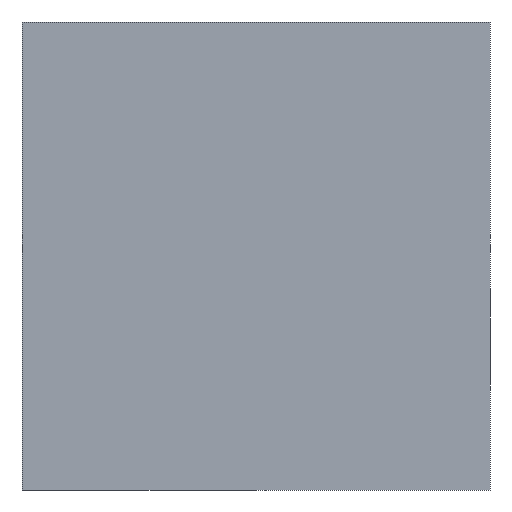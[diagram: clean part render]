
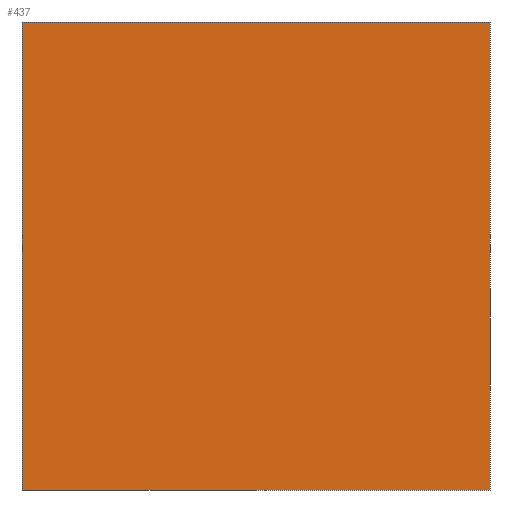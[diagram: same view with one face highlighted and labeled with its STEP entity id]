
A CAD part, left-side view. The second image highlights one B-rep face of the part: STEP entity #437.
In plain terms, the highlighted planar face has unit normal (-1, 0, 0).
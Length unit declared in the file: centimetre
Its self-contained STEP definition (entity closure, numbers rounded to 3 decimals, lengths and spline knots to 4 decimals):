
#3 = LINE ( 'NONE', #445, #345 ) ;
#4 = CARTESIAN_POINT ( 'NONE',  ( 0., 1000., 1000. ) ) ;
#9 = CARTESIAN_POINT ( 'NONE',  ( 0., 0., 0. ) ) ;
#13 = DIRECTION ( 'NONE',  ( 0., -1., 0. ) ) ;
#18 = CARTESIAN_POINT ( 'NONE',  ( 0., 1000., 1000. ) ) ;
#29 = ORIENTED_EDGE ( 'NONE', *, *, #322, .T. ) ;
#34 = ORIENTED_EDGE ( 'NONE', *, *, #38, .T. ) ;
#35 = VECTOR ( 'NONE', #52, 100. ) ;
#38 = EDGE_CURVE ( 'NONE', #354, #435, #300, .T. ) ;
#44 = PLANE ( 'NONE',  #387 ) ;
#52 = DIRECTION ( 'NONE',  ( 0., 0., -1. ) ) ;
#103 = ORIENTED_EDGE ( 'NONE', *, *, #289, .F. ) ;
#111 = EDGE_LOOP ( 'NONE', ( #29, #392, #103, #34 ) ) ;
#188 = CARTESIAN_POINT ( 'NONE',  ( 0., 1000., 0. ) ) ;
#190 = CARTESIAN_POINT ( 'NONE',  ( 0., 0., 1000. ) ) ;
#198 = LINE ( 'NONE', #202, #263 ) ;
#200 = VERTEX_POINT ( 'NONE', #382 ) ;
#201 = EDGE_CURVE ( 'NONE', #200, #472, #420, .T. ) ;
#202 = CARTESIAN_POINT ( 'NONE',  ( 0., 1000., 0. ) ) ;
#246 = VECTOR ( 'NONE', #417, 100. ) ;
#263 = VECTOR ( 'NONE', #349, 100. ) ;
#267 = DIRECTION ( 'NONE',  ( 0., 0., -1. ) ) ;
#289 = EDGE_CURVE ( 'NONE', #354, #200, #3, .T. ) ;
#300 = LINE ( 'NONE', #18, #246 ) ;
#317 = CARTESIAN_POINT ( 'NONE',  ( 0., 1000., 1000. ) ) ;
#322 = EDGE_CURVE ( 'NONE', #435, #472, #198, .T. ) ;
#340 = DIRECTION ( 'NONE',  ( 1., 0., 0. ) ) ;
#345 = VECTOR ( 'NONE', #13, 100. ) ;
#349 = DIRECTION ( 'NONE',  ( 0., -1., 0. ) ) ;
#354 = VERTEX_POINT ( 'NONE', #317 ) ;
#382 = CARTESIAN_POINT ( 'NONE',  ( 0., 0., 1000. ) ) ;
#387 = AXIS2_PLACEMENT_3D ( 'NONE', #4, #340, #267 ) ;
#392 = ORIENTED_EDGE ( 'NONE', *, *, #201, .F. ) ;
#415 = FACE_OUTER_BOUND ( 'NONE', #111, .T. ) ;
#417 = DIRECTION ( 'NONE',  ( 0., 0., -1. ) ) ;
#420 = LINE ( 'NONE', #190, #35 ) ;
#435 = VERTEX_POINT ( 'NONE', #188 ) ;
#437 = ADVANCED_FACE ( 'NONE', ( #415 ), #44, .F. ) ;
#445 = CARTESIAN_POINT ( 'NONE',  ( 0., 1000., 1000. ) ) ;
#472 = VERTEX_POINT ( 'NONE', #9 ) ;
